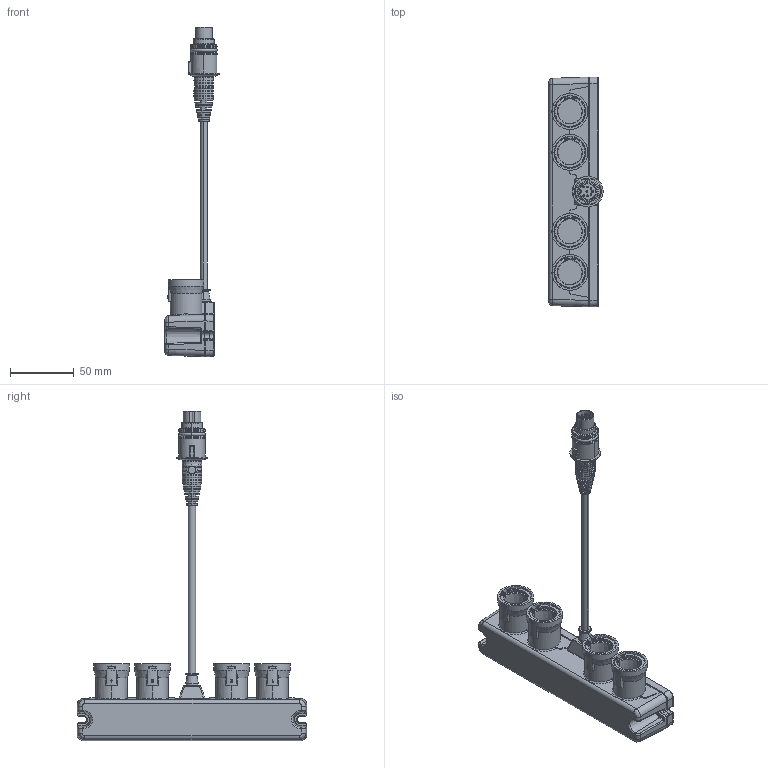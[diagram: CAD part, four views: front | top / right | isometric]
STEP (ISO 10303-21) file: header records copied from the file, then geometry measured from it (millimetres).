
FILE_DESCRIPTION((''),'2;1');
FILE_NAME('DJB','2016-09-14T',('TI'),(''),'CREO PARAMETRIC BY PTC INC, 2016050','CREO PARAMETRIC BY PTC INC, 2016050','');
FILE_SCHEMA(('CONFIG_CONTROL_DESIGN'));
Length unit declared in the file: millimetre
Products named in the file (1): DJB
Bounding box: 42.5 x 180 x 258 mm (x, y, z)
Volume: 260196.4 mm3; surface area: 57733.4 mm2
Topology: 1 solids, 3 shells, 1048 faces, 2973 edges, 1892 vertices
Faces by surface type: plane 428, cylinder 338, torus 109, cone 71, sphere 52, bspline 48, extrusion 2
Entity records: 38158 total; most frequent: CARTESIAN_POINT 11317, ORIENTED_EDGE 5838, DIRECTION 5533, EDGE_CURVE 2919, AXIS2_PLACEMENT_3D 2174, VERTEX_POINT 1892, VECTOR 1185, LINE 1183
